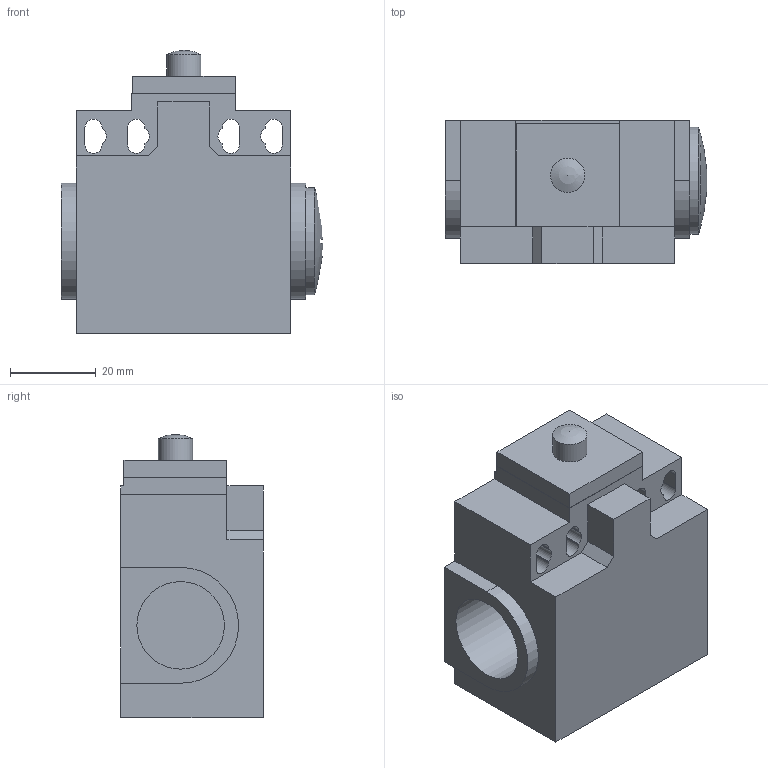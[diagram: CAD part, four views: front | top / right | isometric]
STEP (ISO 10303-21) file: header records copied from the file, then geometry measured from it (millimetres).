
FILE_DESCRIPTION((''),'2;1');
FILE_NAME('D:\Documenti_D\Corrispondenza\Comepi\Catalogo da fare\Modelli Nov 2011\DP\STEP\DP1-T10.iam.step','2011-11-17T12:04:43',(''),(''),'Autodesk Inventor 2010','Autodesk Inventor 2010','');
FILE_SCHEMA(('AUTOMOTIVE_DESIGN { 1 0 10303 214 1 1 1 1 }'));
Length unit declared in the file: millimetre
Products named in the file (7): DP1-T10; DP1; tappo; T10.iam; T10_1; T10_2
Assembly tree (6 placements, depth 3):
  DP1-T10
    DP1
      DP1
      tappo
    T10.iam
      T10_1
      T10_2
Bounding box: 60.92 x 33.3 x 66 mm (x, y, z)
Volume: 72509.9 mm3; surface area: 20927 mm2
Topology: 4 solids, 4 shells, 72 faces, 191 edges, 127 vertices
Faces by surface type: plane 51, cylinder 18, sphere 2, cone 1
Full cylindrical faces by diameter (mm): 8 x2, 20.4 x1, 25 x1
Entity records: 2432 total; most frequent: DIRECTION 394, CARTESIAN_POINT 393, ORIENTED_EDGE 366, EDGE_CURVE 183, VECTOR 142, LINE 142, AXIS2_PLACEMENT_3D 126, VERTEX_POINT 125
